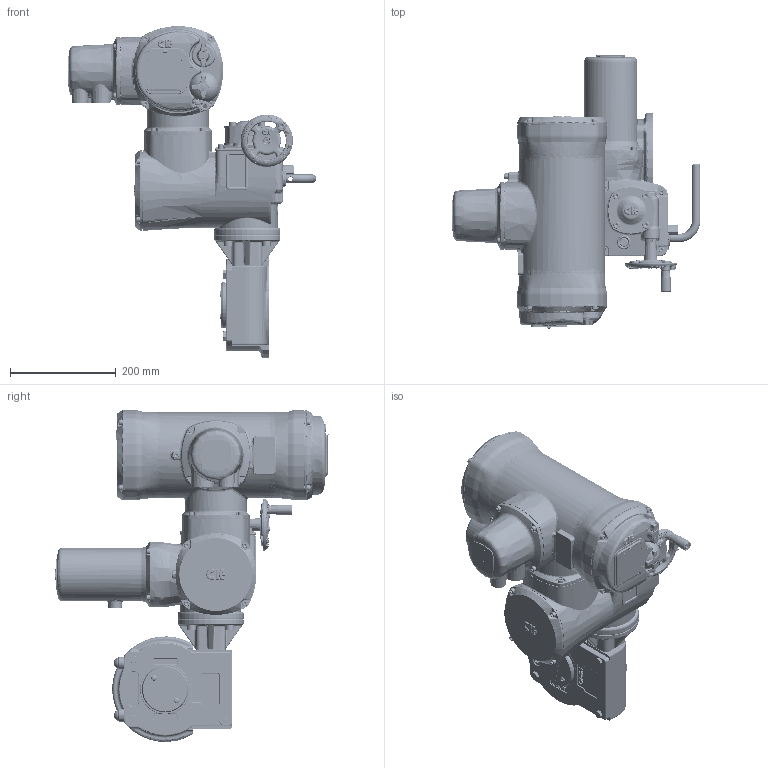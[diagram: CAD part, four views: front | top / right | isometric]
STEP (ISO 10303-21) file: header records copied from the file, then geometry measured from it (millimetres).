
FILE_DESCRIPTION(/* description */ ('Unknown','CAx-IF Rec.Pracs.---Representation and Presentation of Product Manufacturing Information (PMI)---4.0---2014-10-13','CAx-IF Rec.Pracs.---3D Tessellated Geometry---0.4---2014-09-14','2;1'),/* implementation_level */ '2;1');
FILE_NAME(/* name */ 'A4A8N0BS00X-1',/* time_stamp */ '2017-11-14T18:11:26+06:00',/* author */ ('Unknown'),/* organization */ ('Unknown'),/* preprocessor_version */ 'ST-DEVELOPER v16.7',/* originating_system */ 'DEX',/* authorisation */ $);
FILE_SCHEMA (('AP242_MANAGED_MODEL_BASED_3D_ENGINEERING_MIM_LF { 1 0 10303 442 20130219 1 4 }'));
Length unit declared in the file: millimetre
Products named in the file (8): A4A8N0BS00X-1; CK1-01; CK1-04-NRS; CK1-05; CK0-06; CK0-20 Terminal Cover; F10- Non Thrust; AB880MLBN LH
Assembly tree (7 placements, depth 2):
  A4A8N0BS00X-1
    CK1-01
    CK1-04-NRS
    CK1-05
    CK0-06
    CK0-20 Terminal Cover
    F10- Non Thrust
    AB880MLBN LH
Bounding box: 470.34 x 517.7 x 628.16 mm (x, y, z)
Volume: 21381457.7 mm3; surface area: 1056951.4 mm2
Topology: 13 solids, 63 shells, 14368 faces, 34571 edges, 20546 vertices
Faces by surface type: plane 4933, bspline 4064, cylinder 3232, torus 918, cone 690, sphere 531
Full cylindrical faces by diameter (mm): 0.6 x2, 1.152 x1, 3 x2, 3.2 x1, 4 x2, 4.2 x6, 4.4 x1, 4.5 x5, 4.917 x23, 5.5 x4, 6 x15, 6.4 x1, 6.45 x4, 6.47 x4, 6.5 x12, 6.6 x4, 6.647 x1, 7 x5, 8 x11, 8.2 x1, 8.376 x4, 9 x8, 10 x35, 10.22 x4, 10.8 x4, 11 x1, 11.92 x1, 12 x2, 13 x10, 13.5 x1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
Entity records: 623665 total; most frequent: CARTESIAN_POINT 232377, ORIENTED_EDGE 66542, DIRECTION 48586, EDGE_CURVE 33271, VERTEX_POINT 20281, AXIS2_PLACEMENT_3D 18459, FACE_BOUND 15774, EDGE_LOOP 15716
